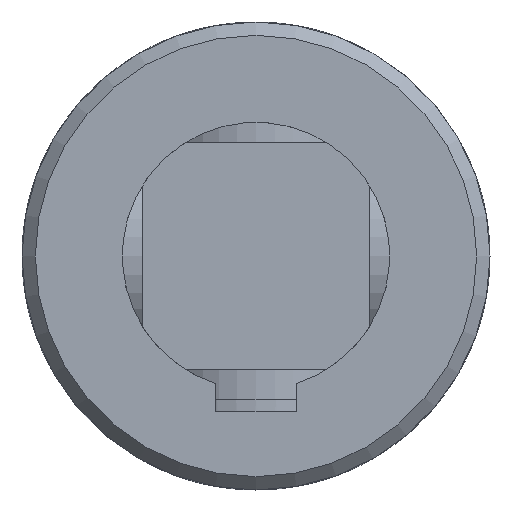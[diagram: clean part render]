
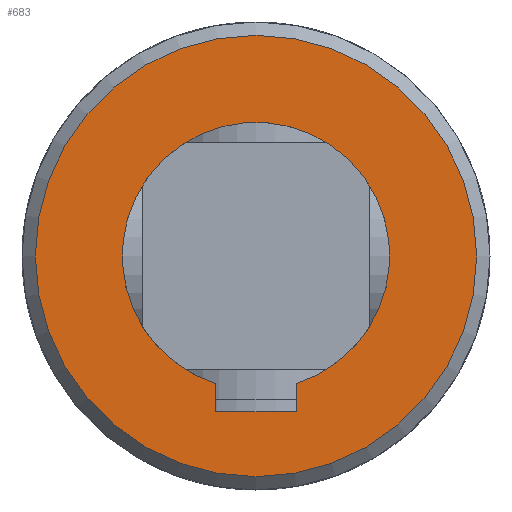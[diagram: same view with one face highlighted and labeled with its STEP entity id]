
A CAD part, front view. The second image highlights one B-rep face of the part: STEP entity #683.
In plain terms, the highlighted planar face has unit normal (0, -1, 0).
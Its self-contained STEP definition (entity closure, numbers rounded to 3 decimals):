
#78=LINE('',#1041,#109);
#81=LINE('',#1054,#112);
#83=LINE('',#1060,#114);
#109=VECTOR('',#854,4.221);
#112=VECTOR('',#859,12.);
#114=VECTOR('',#865,4.221);
#140=PLANE('',#746);
#166=FACE_BOUND('',#252,.T.);
#194=FACE_OUTER_BOUND('',#251,.T.);
#251=EDGE_LOOP('',(#553));
#252=EDGE_LOOP('',(#554,#555,#556,#557));
#293=CIRCLE('',#741,20.);
#295=CIRCLE('',#744,33.);
#330=VERTEX_POINT('',#1038);
#331=VERTEX_POINT('',#1040);
#333=VERTEX_POINT('',#1052);
#335=VERTEX_POINT('',#1058);
#341=VERTEX_POINT('',#1130);
#402=EDGE_CURVE('',#331,#330,#78,.T.);
#406=EDGE_CURVE('',#330,#333,#81,.T.);
#409=EDGE_CURVE('',#333,#335,#83,.T.);
#415=EDGE_CURVE('',#335,#331,#293,.T.);
#417=EDGE_CURVE('',#341,#341,#295,.T.);
#553=ORIENTED_EDGE('',*,*,#417,.F.);
#554=ORIENTED_EDGE('',*,*,#402,.T.);
#555=ORIENTED_EDGE('',*,*,#406,.T.);
#556=ORIENTED_EDGE('',*,*,#409,.T.);
#557=ORIENTED_EDGE('',*,*,#415,.T.);
#683=ADVANCED_FACE('',(#194,#166),#140,.F.);
#741=AXIS2_PLACEMENT_3D('',#1126,#874,#875);
#744=AXIS2_PLACEMENT_3D('',#1131,#880,#881);
#746=AXIS2_PLACEMENT_3D('',#1363,#888,#889);
#854=DIRECTION('',(0.,0.,-1.));
#859=DIRECTION('',(-1.,0.,0.));
#865=DIRECTION('',(0.,0.,1.));
#874=DIRECTION('center_axis',(0.,1.,0.));
#875=DIRECTION('ref_axis',(-0.3,0.,0.954));
#880=DIRECTION('center_axis',(0.,1.,0.));
#881=DIRECTION('ref_axis',(1.,0.,0.));
#888=DIRECTION('center_axis',(0.,1.,0.));
#889=DIRECTION('ref_axis',(0.,0.,1.));
#1038=CARTESIAN_POINT('',(6.,-100.,-23.3));
#1040=CARTESIAN_POINT('',(6.,-100.,-19.079));
#1041=CARTESIAN_POINT('',(6.,-100.,-9.539));
#1052=CARTESIAN_POINT('',(-6.,-100.,-23.3));
#1054=CARTESIAN_POINT('',(3.,-100.,-23.3));
#1058=CARTESIAN_POINT('',(-6.,-100.,-19.079));
#1060=CARTESIAN_POINT('',(-6.,-100.,-11.65));
#1126=CARTESIAN_POINT('Origin',(0.,-100.,0.));
#1130=CARTESIAN_POINT('',(-33.,-100.,0.));
#1131=CARTESIAN_POINT('Origin',(0.,-100.,0.));
#1363=CARTESIAN_POINT('Origin',(0.,-100.,0.));
